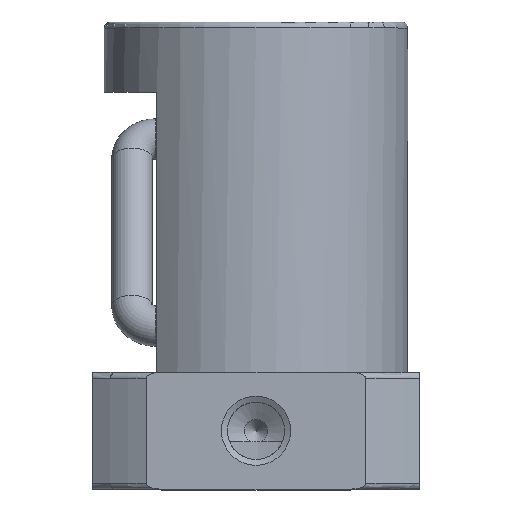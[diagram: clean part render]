
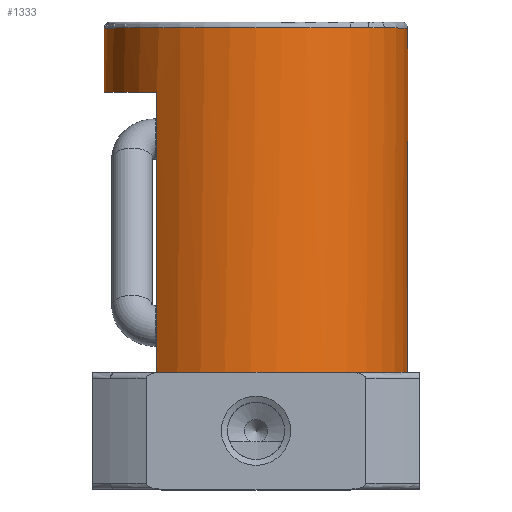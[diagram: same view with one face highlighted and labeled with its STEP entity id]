
A CAD part, top view. The second image highlights one B-rep face of the part: STEP entity #1333.
In plain terms, the highlighted cylindrical face has radius 13 mm (diameter 26 mm), a full revolution.
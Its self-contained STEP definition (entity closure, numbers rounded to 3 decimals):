
#74=CYLINDRICAL_SURFACE('',#1404,13.);
#107=CIRCLE('',#1405,13.);
#108=CIRCLE('',#1406,13.);
#109=CIRCLE('',#1407,13.);
#173=ORIENTED_EDGE('',*,*,#409,.T.);
#174=ORIENTED_EDGE('',*,*,#410,.F.);
#175=ORIENTED_EDGE('',*,*,#404,.T.);
#176=ORIENTED_EDGE('',*,*,#411,.T.);
#177=ORIENTED_EDGE('',*,*,#402,.T.);
#402=EDGE_CURVE('',#521,#519,#614,.F.);
#404=EDGE_CURVE('',#520,#522,#616,.T.);
#409=EDGE_CURVE('',#527,#527,#107,.F.);
#410=EDGE_CURVE('',#520,#519,#108,.T.);
#411=EDGE_CURVE('',#522,#521,#109,.F.);
#519=VERTEX_POINT('',#1830);
#520=VERTEX_POINT('',#1831);
#521=VERTEX_POINT('',#1833);
#522=VERTEX_POINT('',#1835);
#527=VERTEX_POINT('',#1847);
#614=LINE('',#1832,#638);
#616=LINE('',#1836,#640);
#638=VECTOR('',#1538,1000.);
#640=VECTOR('',#1540,1000.);
#666=EDGE_LOOP('',(#173));
#667=EDGE_LOOP('',(#174,#175,#176,#177));
#774=FACE_BOUND('',#666,.T.);
#775=FACE_BOUND('',#667,.T.);
#1333=ADVANCED_FACE('',(#774,#775),#74,.T.);
#1404=AXIS2_PLACEMENT_3D('',#1845,#1549,#1550);
#1405=AXIS2_PLACEMENT_3D('',#1846,#1551,#1552);
#1406=AXIS2_PLACEMENT_3D('',#1848,#1553,#1554);
#1407=AXIS2_PLACEMENT_3D('',#1849,#1555,#1556);
#1538=DIRECTION('',(0.,-1.,0.));
#1540=DIRECTION('',(0.,-1.,0.));
#1549=DIRECTION('',(0.,-1.,0.));
#1550=DIRECTION('',(0.,0.,-1.));
#1551=DIRECTION('',(0.,1.,0.));
#1552=DIRECTION('',(0.,0.,1.));
#1553=DIRECTION('',(0.,-1.,0.));
#1554=DIRECTION('',(0.,0.,-1.));
#1555=DIRECTION('',(0.,-1.,0.));
#1556=DIRECTION('',(0.,0.,-1.));
#1830=CARTESIAN_POINT('',(-8.5,34.,-9.836));
#1831=CARTESIAN_POINT('',(-8.5,34.,9.836));
#1832=CARTESIAN_POINT('',(-8.5,40.,-9.836));
#1833=CARTESIAN_POINT('',(-8.5,10.,-9.836));
#1835=CARTESIAN_POINT('',(-8.5,10.,9.836));
#1836=CARTESIAN_POINT('',(-8.5,40.,9.836));
#1845=CARTESIAN_POINT('',(0.,40.,0.));
#1846=CARTESIAN_POINT('',(0.,39.5,0.));
#1847=CARTESIAN_POINT('',(0.,39.5,13.));
#1848=CARTESIAN_POINT('',(0.,34.,0.));
#1849=CARTESIAN_POINT('',(0.,10.,0.));
